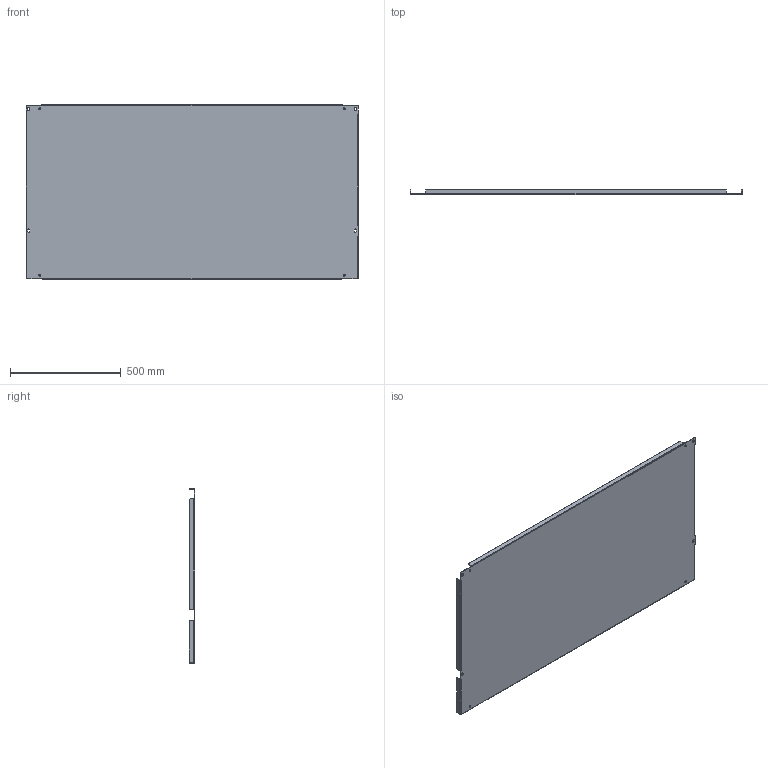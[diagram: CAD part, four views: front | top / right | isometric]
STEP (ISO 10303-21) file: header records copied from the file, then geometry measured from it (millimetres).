
FILE_DESCRIPTION (( 'STEP AP203' ), '1' );
FILE_NAME ('GCPZ16_V1.step', '2014-11-10T12:58:12', ( '' ), ( '' ), 'SwSTEP 2.0', 'SolidWorks 2014', '' );
FILE_SCHEMA (( 'CONFIG_CONTROL_DESIGN' ));
Length unit declared in the file: millimetre
Products named in the file (1): GCPZ16_V1
Bounding box: 1499 x 24 x 790 mm (x, y, z)
Volume: 3166898.5 mm3; surface area: 2546346.4 mm2
Topology: 1 solids, 1 shells, 98 faces, 268 edges, 172 vertices
Faces by surface type: plane 66, cylinder 32
Entity records: 3185 total; most frequent: CARTESIAN_POINT 539, ORIENTED_EDGE 536, DIRECTION 530, EDGE_CURVE 268, VECTOR 204, LINE 204, VERTEX_POINT 172, AXIS2_PLACEMENT_3D 163
